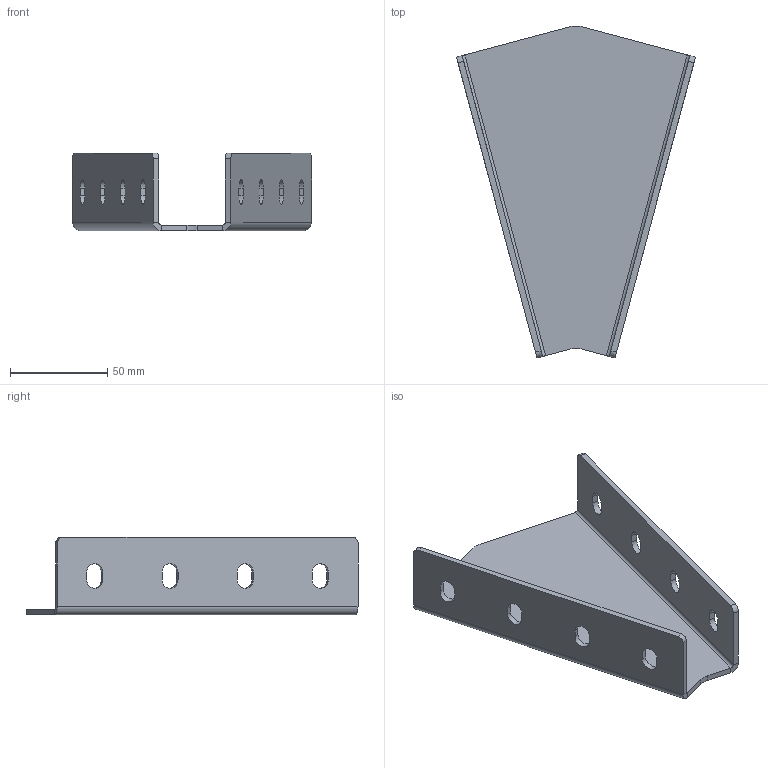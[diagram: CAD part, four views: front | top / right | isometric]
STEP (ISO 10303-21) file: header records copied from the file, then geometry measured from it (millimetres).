
FILE_DESCRIPTION (( 'STEP AP214' ), '1' );
FILE_NAME ('4016030.STEP', '2018-03-09T05:31:29', ( '' ), ( '' ), 'SwSTEP 2.0', 'SolidWorks 2014', '' );
FILE_SCHEMA (( 'AUTOMOTIVE_DESIGN' ));
Length unit declared in the file: millimetre
Products named in the file (2): 4016030
Bounding box: 122.82 x 170.61 x 40 mm (x, y, z)
Volume: 72538.6 mm3; surface area: 51070 mm2
Topology: 1 solids, 1 shells, 62 faces, 164 edges, 104 vertices
Faces by surface type: plane 36, cylinder 26
Entity records: 1993 total; most frequent: DIRECTION 344, CARTESIAN_POINT 332, ORIENTED_EDGE 328, EDGE_CURVE 164, AXIS2_PLACEMENT_3D 116, VECTOR 112, LINE 112, VERTEX_POINT 104
